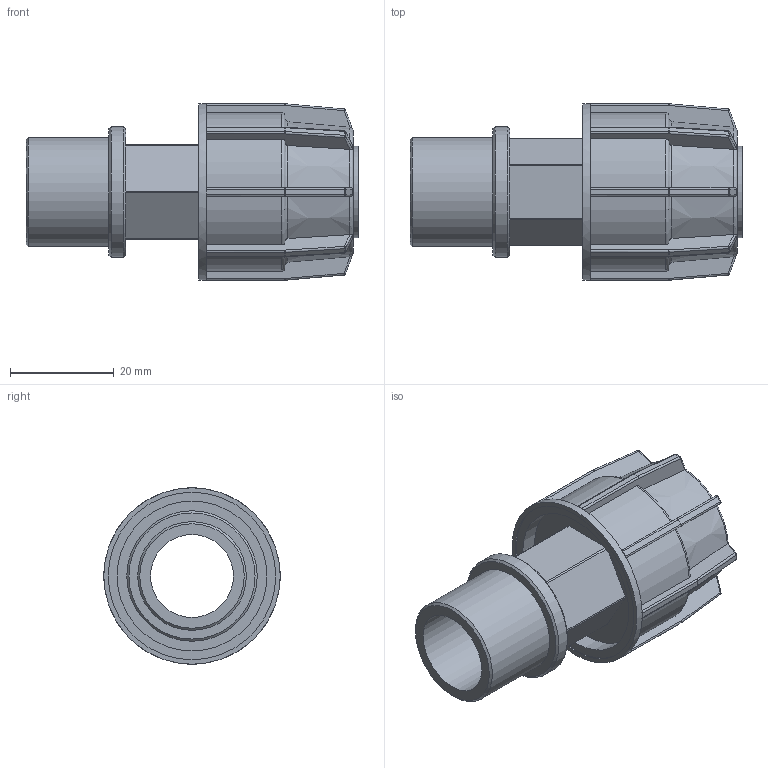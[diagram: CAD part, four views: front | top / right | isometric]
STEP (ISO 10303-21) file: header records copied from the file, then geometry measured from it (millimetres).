
FILE_DESCRIPTION(/* description */ ('PLASSON IRRIFIT ADAPTOR 16-1/2"M'),/* implementation_level */ '2;1');
FILE_NAME(/* name */ 'C:\Dropbox\KIMPROJECTS-Inventor\99-16-3568-Processing\Silver+MF ISRAEL\040207\040207016005.ipt.stp',/* time_stamp */ '2018-04-09T12:59:35+03:00',/* author */ ('KIM'),/* organization */ (''),/* preprocessor_version */ 'ST-DEVELOPER v15.6',/* originating_system */ 'Autodesk Inventor 2015',/* authorisation */ '');
FILE_SCHEMA (('AUTOMOTIVE_DESIGN { 1 0 10303 214 3 1 1 }'));
Length unit declared in the file: millimetre
Products named in the file (1): 040207016005
Bounding box: 64 x 34 x 34 mm (x, y, z)
Volume: 17448.1 mm3; surface area: 11445.4 mm2
Topology: 1 solids, 1 shells, 281 faces, 661 edges, 384 vertices
Faces by surface type: plane 141, cylinder 80, sphere 32, torus 17, cone 11
Full cylindrical faces by diameter (mm): 16 x1, 17.6 x1, 19.2 x1, 20.955 x1, 25.146 x1, 28.9 x1, 32.3 x1, 34 x1
Entity records: 8322 total; most frequent: CARTESIAN_POINT 2138, DIRECTION 1292, ORIENTED_EDGE 1276, EDGE_CURVE 638, AXIS2_PLACEMENT_3D 508, VERTEX_POINT 378, EDGE_LOOP 302, FACE_OUTER_BOUND 281
